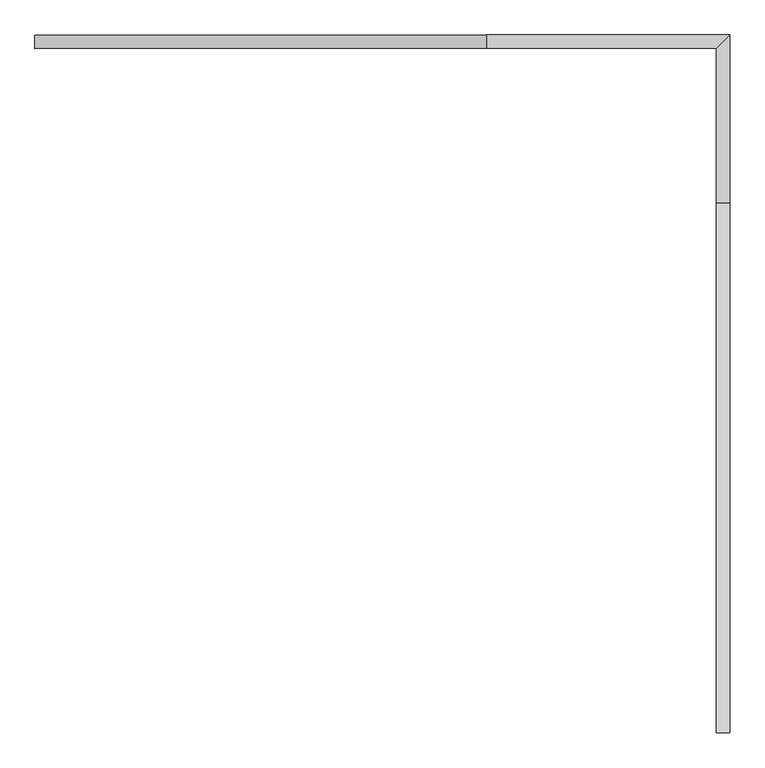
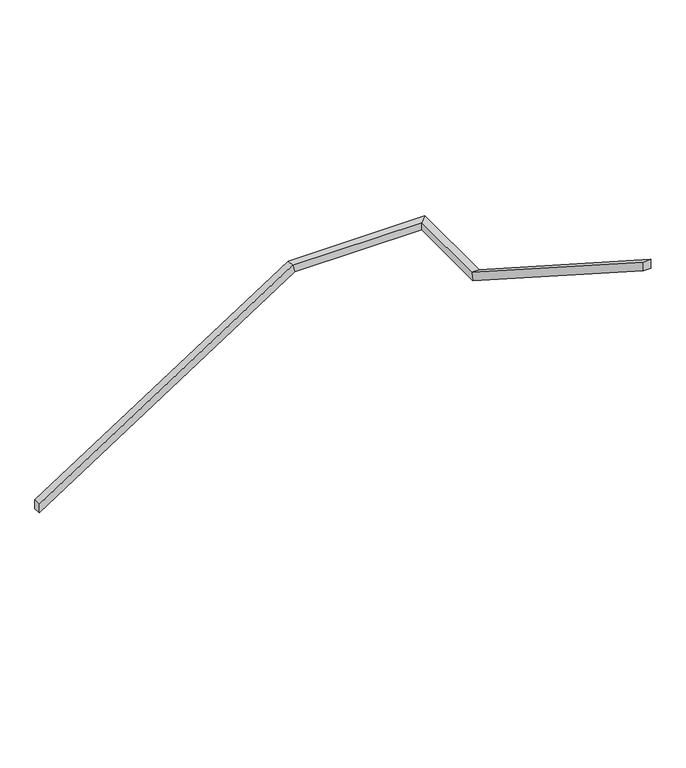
"""IFC4 building model written with IfcOpenShell, lengths in millimetres: railing geometry, 900mm 方管."""

from ifc_helpers import new_model, si_unit, origin, place, context, project, spatial, faceted_brep, source, transform, mapped, element, save


def railing_cc37d2c5(model_context):
    return source(origin(), model_context, "Body", "Brep", [
        faceted_brep([(-661.0698346, 4521.1832564, 1080.0), (-661.0698346, 4521.1832564, 1020.4542426), (-661.0698346, 4471.1832564, 1020.4542426), (-661.0698346, 4471.1832564, 1080.0), (1008.8313871, 4521.1832564, 2160.0), (1023.5910833, 4521.1832564, 2110.0), (1023.5910833, 4471.1832564, 2110.0), (1008.8313871, 4471.1832564, 2160.0), (1908.8313871, 4521.1832564, 2160.0), (1908.8313871, 4521.1832564, 2110.0), (1858.8313871, 4471.1832564, 2110.0), (1858.8313871, 4471.1832564, 2160.0), (1908.8313871, 3901.1832564, 2160.0), (1908.8313871, 3886.4981621, 2110.0), (1858.8313871, 3886.4981621, 2110.0), (1858.8313871, 3901.1832564, 2160.0), (1908.8313871, 1941.1832564, 3420.0), (1858.8313871, 1941.1832564, 3420.0), (1858.8313871, 1941.1832564, 3360.5595822), (1908.8313871, 1941.1832564, 3360.5595822)], [[[0, 1, 2, 3]], [[1, 0, 4, 5]], [[2, 1, 5, 6]], [[3, 2, 6, 7]], [[0, 3, 7, 4]], [[5, 4, 8, 9]], [[6, 5, 9, 10]], [[7, 6, 10, 11]], [[4, 7, 11, 8]], [[9, 8, 12, 13]], [[10, 9, 13, 14]], [[11, 10, 14, 15]], [[8, 11, 15, 12]], [[16, 17, 18, 19]], [[13, 12, 16, 19]], [[14, 13, 19, 18]], [[15, 14, 18, 17]], [[12, 15, 17, 16]]]),
    ])


if __name__ == "__main__":
    model = new_model("IFC4")
    model_context = context("Model", 3, world=origin())
    ifc_project = project(units=[si_unit("LENGTHUNIT", "METRE", prefix="MILLI")], contexts=[model_context])
    site = spatial("IfcSite", under=ifc_project)
    building = spatial("IfcBuilding", under=site)
    placement = place(None, origin())
    railing_shape = railing_cc37d2c5(model_context)
    element("IfcRailing", 1, ObjectType="900mm 方管", at=placement, inside=building, context=model_context, shape_type="MappedRepresentation", body=[
        mapped(railing_shape, transform((0.0, 0.0, 0.0), x_axis=(1.0, 0.0, 0.0), y_axis=(0.0, 1.0, 0.0), z_axis=(0.0, 0.0, 1.0))),
    ])
    save(model, "model.ifc")
